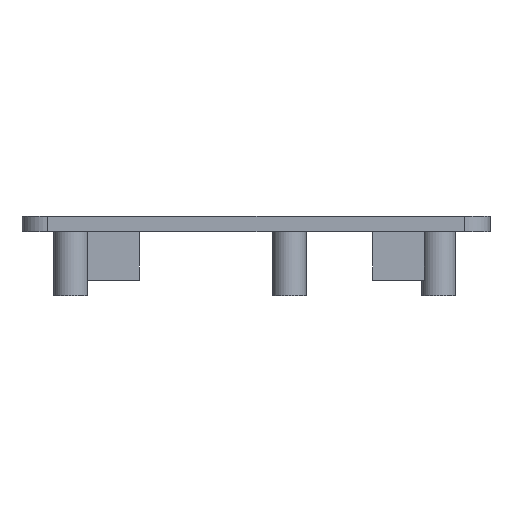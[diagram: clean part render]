
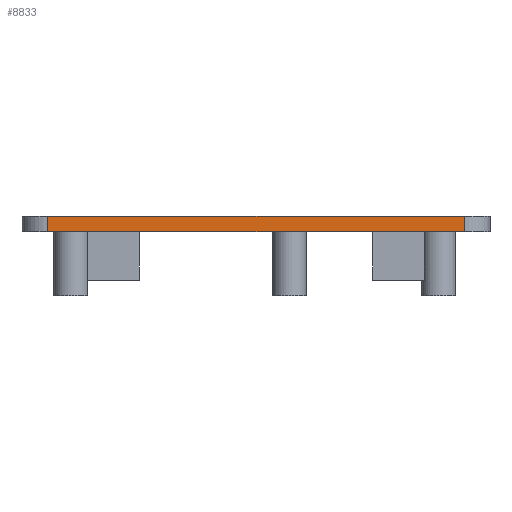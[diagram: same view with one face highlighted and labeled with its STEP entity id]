
A CAD part, left-side view. The second image highlights one B-rep face of the part: STEP entity #8833.
In plain terms, the highlighted planar face has unit normal (-1, 0, 0).
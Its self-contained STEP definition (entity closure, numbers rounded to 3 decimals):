
#44 = PLANE('',#45);
#45 = AXIS2_PLACEMENT_3D('',#46,#47,#48);
#46 = CARTESIAN_POINT('',(106.5,45.5,0.));
#47 = DIRECTION('',(0.,0.,1.));
#48 = DIRECTION('',(1.,0.,-0.));
#72 = CYLINDRICAL_SURFACE('',#73,5.);
#73 = AXIS2_PLACEMENT_3D('',#74,#75,#76);
#74 = CARTESIAN_POINT('',(5.,5.,0.));
#75 = DIRECTION('',(0.,0.,1.));
#76 = DIRECTION('',(0.,-1.,0.));
#100 = PLANE('',#101);
#101 = AXIS2_PLACEMENT_3D('',#102,#103,#104);
#102 = CARTESIAN_POINT('',(106.5,45.5,3.));
#103 = DIRECTION('',(0.,0.,1.));
#104 = DIRECTION('',(1.,0.,-0.));
#252 = VERTEX_POINT('',#253);
#253 = CARTESIAN_POINT('',(0.,86.,0.));
#268 = CYLINDRICAL_SURFACE('',#269,5.);
#269 = AXIS2_PLACEMENT_3D('',#270,#271,#272);
#270 = CARTESIAN_POINT('',(5.,86.,0.));
#271 = DIRECTION('',(0.,0.,1.));
#272 = DIRECTION('',(-0.,1.,0.));
#280 = EDGE_CURVE('',#252,#281,#283,.T.);
#281 = VERTEX_POINT('',#282);
#282 = CARTESIAN_POINT('',(0.,5.,0.));
#283 = SURFACE_CURVE('',#284,(#288,#295),.PCURVE_S1.);
#284 = LINE('',#285,#286);
#285 = CARTESIAN_POINT('',(0.,91.,0.));
#286 = VECTOR('',#287,1.);
#287 = DIRECTION('',(0.,-1.,0.));
#288 = PCURVE('',#44,#289);
#289 = DEFINITIONAL_REPRESENTATION('',(#290),#294);
#290 = LINE('',#291,#292);
#291 = CARTESIAN_POINT('',(-106.5,45.5));
#292 = VECTOR('',#293,1.);
#293 = DIRECTION('',(0.,-1.));
#294 = ( GEOMETRIC_REPRESENTATION_CONTEXT(2) 
PARAMETRIC_REPRESENTATION_CONTEXT() REPRESENTATION_CONTEXT('2D SPACE',''
  ) );
#295 = PCURVE('',#296,#301);
#296 = PLANE('',#297);
#297 = AXIS2_PLACEMENT_3D('',#298,#299,#300);
#298 = CARTESIAN_POINT('',(0.,91.,0.));
#299 = DIRECTION('',(1.,0.,-0.));
#300 = DIRECTION('',(0.,-1.,0.));
#301 = DEFINITIONAL_REPRESENTATION('',(#302),#306);
#302 = LINE('',#303,#304);
#303 = CARTESIAN_POINT('',(0.,0.));
#304 = VECTOR('',#305,1.);
#305 = DIRECTION('',(1.,0.));
#306 = ( GEOMETRIC_REPRESENTATION_CONTEXT(2) 
PARAMETRIC_REPRESENTATION_CONTEXT() REPRESENTATION_CONTEXT('2D SPACE',''
  ) );
#5195 = EDGE_CURVE('',#281,#5196,#5198,.T.);
#5196 = VERTEX_POINT('',#5197);
#5197 = CARTESIAN_POINT('',(0.,5.,3.));
#5198 = SURFACE_CURVE('',#5199,(#5203,#5210),.PCURVE_S1.);
#5199 = LINE('',#5200,#5201);
#5200 = CARTESIAN_POINT('',(0.,5.,0.));
#5201 = VECTOR('',#5202,1.);
#5202 = DIRECTION('',(0.,0.,1.));
#5203 = PCURVE('',#72,#5204);
#5204 = DEFINITIONAL_REPRESENTATION('',(#5205),#5209);
#5205 = LINE('',#5206,#5207);
#5206 = CARTESIAN_POINT('',(-1.571,0.));
#5207 = VECTOR('',#5208,1.);
#5208 = DIRECTION('',(-0.,1.));
#5209 = ( GEOMETRIC_REPRESENTATION_CONTEXT(2) 
PARAMETRIC_REPRESENTATION_CONTEXT() REPRESENTATION_CONTEXT('2D SPACE',''
  ) );
#5210 = PCURVE('',#296,#5211);
#5211 = DEFINITIONAL_REPRESENTATION('',(#5212),#5216);
#5212 = LINE('',#5213,#5214);
#5213 = CARTESIAN_POINT('',(86.,-0.));
#5214 = VECTOR('',#5215,1.);
#5215 = DIRECTION('',(0.,-1.));
#5216 = ( GEOMETRIC_REPRESENTATION_CONTEXT(2) 
PARAMETRIC_REPRESENTATION_CONTEXT() REPRESENTATION_CONTEXT('2D SPACE',''
  ) );
#5371 = VERTEX_POINT('',#5372);
#5372 = CARTESIAN_POINT('',(0.,86.,3.));
#5394 = EDGE_CURVE('',#5371,#5196,#5395,.T.);
#5395 = SURFACE_CURVE('',#5396,(#5400,#5407),.PCURVE_S1.);
#5396 = LINE('',#5397,#5398);
#5397 = CARTESIAN_POINT('',(0.,91.,3.));
#5398 = VECTOR('',#5399,1.);
#5399 = DIRECTION('',(0.,-1.,0.));
#5400 = PCURVE('',#100,#5401);
#5401 = DEFINITIONAL_REPRESENTATION('',(#5402),#5406);
#5402 = LINE('',#5403,#5404);
#5403 = CARTESIAN_POINT('',(-106.5,45.5));
#5404 = VECTOR('',#5405,1.);
#5405 = DIRECTION('',(0.,-1.));
#5406 = ( GEOMETRIC_REPRESENTATION_CONTEXT(2) 
PARAMETRIC_REPRESENTATION_CONTEXT() REPRESENTATION_CONTEXT('2D SPACE',''
  ) );
#5407 = PCURVE('',#296,#5408);
#5408 = DEFINITIONAL_REPRESENTATION('',(#5409),#5413);
#5409 = LINE('',#5410,#5411);
#5410 = CARTESIAN_POINT('',(0.,-3.));
#5411 = VECTOR('',#5412,1.);
#5412 = DIRECTION('',(1.,0.));
#5413 = ( GEOMETRIC_REPRESENTATION_CONTEXT(2) 
PARAMETRIC_REPRESENTATION_CONTEXT() REPRESENTATION_CONTEXT('2D SPACE',''
  ) );
#8811 = EDGE_CURVE('',#252,#5371,#8812,.T.);
#8812 = SURFACE_CURVE('',#8813,(#8817,#8824),.PCURVE_S1.);
#8813 = LINE('',#8814,#8815);
#8814 = CARTESIAN_POINT('',(0.,86.,0.));
#8815 = VECTOR('',#8816,1.);
#8816 = DIRECTION('',(0.,0.,1.));
#8817 = PCURVE('',#268,#8818);
#8818 = DEFINITIONAL_REPRESENTATION('',(#8819),#8823);
#8819 = LINE('',#8820,#8821);
#8820 = CARTESIAN_POINT('',(1.571,0.));
#8821 = VECTOR('',#8822,1.);
#8822 = DIRECTION('',(0.,1.));
#8823 = ( GEOMETRIC_REPRESENTATION_CONTEXT(2) 
PARAMETRIC_REPRESENTATION_CONTEXT() REPRESENTATION_CONTEXT('2D SPACE',''
  ) );
#8824 = PCURVE('',#296,#8825);
#8825 = DEFINITIONAL_REPRESENTATION('',(#8826),#8830);
#8826 = LINE('',#8827,#8828);
#8827 = CARTESIAN_POINT('',(5.,-0.));
#8828 = VECTOR('',#8829,1.);
#8829 = DIRECTION('',(0.,-1.));
#8830 = ( GEOMETRIC_REPRESENTATION_CONTEXT(2) 
PARAMETRIC_REPRESENTATION_CONTEXT() REPRESENTATION_CONTEXT('2D SPACE',''
  ) );
#8833 = ADVANCED_FACE('',(#8834),#296,.F.);
#8834 = FACE_BOUND('',#8835,.F.);
#8835 = EDGE_LOOP('',(#8836,#8837,#8838,#8839));
#8836 = ORIENTED_EDGE('',*,*,#280,.F.);
#8837 = ORIENTED_EDGE('',*,*,#8811,.T.);
#8838 = ORIENTED_EDGE('',*,*,#5394,.T.);
#8839 = ORIENTED_EDGE('',*,*,#5195,.F.);
